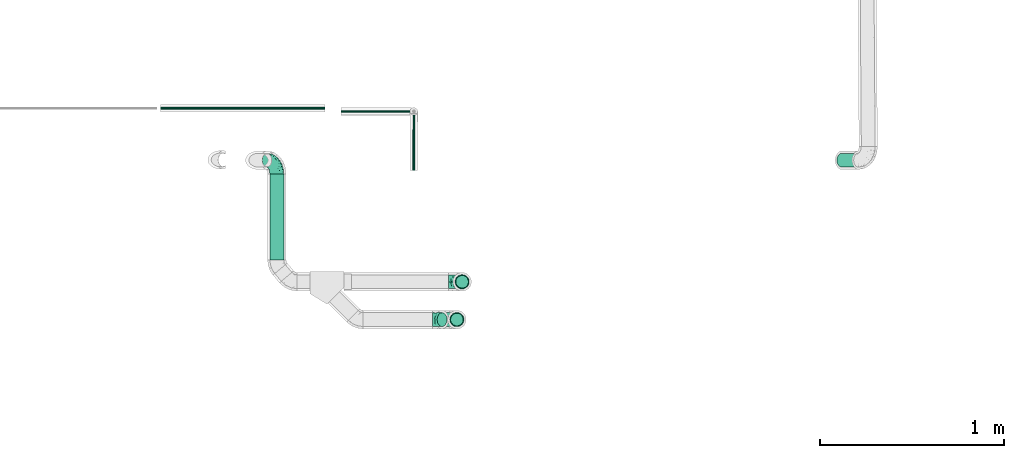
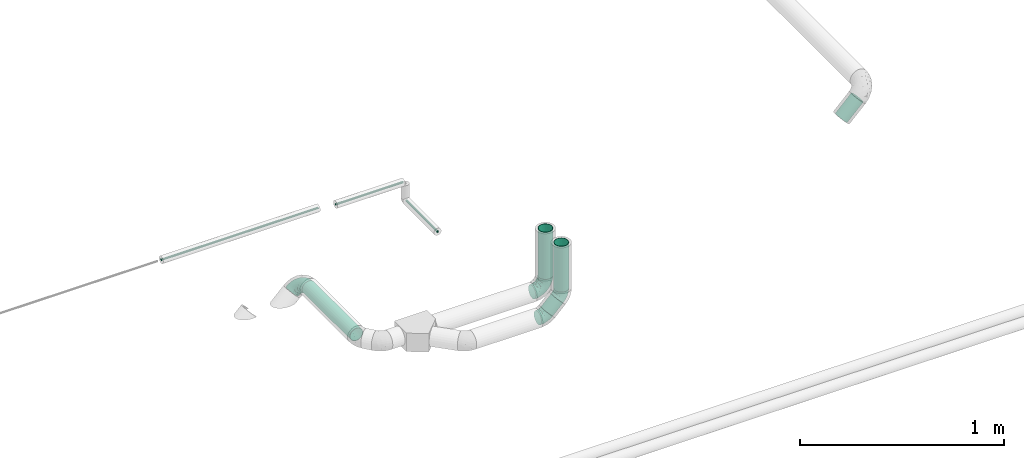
# One storey, part 73 of 156: 8 flow segments, 4 flow fittings.
"""IFC2X3 building model written with IfcOpenShell, lengths in millimetres."""

import ifcopenshell
import ifcopenshell.guid

model = None  # the IFC model being written
_history = None  # IfcOwnerHistory: only IFC2X3 demands one
_inside = {}  # id of a spatial element -> (the spatial element, [elements in it])
_under = {}  # id of a project, library or spatial element -> (it, [spatial elements below it])
_declared = {}  # id of a project -> (the project, [libraries it declares])
_typed = {}  # id of a type object -> (the type object, [elements of that type])
_made_of = {}  # id of a material, layer set ... -> (it, [elements and type objects made of it])


def new_model(schema):
    """Start an empty IFC model of exactly this schema.

    Asked for "IFC4X3", IfcOpenShell would pick the latest addendum, in which some entities
    have other attributes; the version numbers below select the first issue.
    IFC2X3 requires an IfcOwnerHistory on every rooted entity: one is made here for all.
    """
    global model, _history
    if schema == "IFC4X3":
        model = ifcopenshell.file(schema_version=(4, 3, 0, 0))
    else:
        model = ifcopenshell.file(schema=schema)
    _inside.clear()
    _under.clear()
    _declared.clear()
    _typed.clear()
    _made_of.clear()
    _history = None
    if model.schema == "IFC2X3":
        org = make("IfcOrganization", Name="unknown")
        user = make(
            "IfcPersonAndOrganization",
            ThePerson=make("IfcPerson", FamilyName="unknown"),
            TheOrganization=org,
        )
        app = make(
            "IfcApplication",
            ApplicationDeveloper=org,
            Version="unknown",
            ApplicationFullName="unknown",
            ApplicationIdentifier="unknown",
        )
        _history = make(
            "IfcOwnerHistory",
            OwningUser=user,
            OwningApplication=app,
            ChangeAction="ADDED",
            CreationDate=0,
        )
    return model


def make(cls, **values):
    """One entity of the class cls with the attributes given. An attribute that is None is left unset."""
    return model.create_entity(
        cls, **{name: value for name, value in values.items() if value is not None}
    )


def entity(cls, *values):
    """Any entity or typed value of the class cls, its attributes in the order of the schema. None: left unset."""
    e = model.create_entity(cls)
    for i, value in enumerate(values):
        if value is not None:
            e[i] = value
    return e


def rooted(cls, **values):
    """An entity with a GlobalId (a new one), such as an element, a storey or a relation."""
    return make(cls, GlobalId=ifcopenshell.guid.new(), OwnerHistory=_history, **values)


def si_unit(unit_type, name, prefix=None):
    """IfcSIUnit, for example si_unit("LENGTHUNIT", "METRE", prefix="MILLI")."""
    return make("IfcSIUnit", UnitType=unit_type, Prefix=prefix, Name=name)


def converted_unit(unit_type, name, factor, base, dimensions=None, offset=None):
    """IfcConversionBasedUnit, such as the inch: factor (a typed value) times the base unit."""
    return make(
        "IfcConversionBasedUnit"
        if offset is None
        else "IfcConversionBasedUnitWithOffset",
        ConversionOffset=offset,
        Dimensions=None
        if dimensions is None
        else entity("IfcDimensionalExponents", *dimensions),
        UnitType=unit_type,
        Name=name,
        ConversionFactor=make(
            "IfcMeasureWithUnit", ValueComponent=factor, UnitComponent=base
        ),
    )


def derived_unit(unit_type, elements):
    """IfcDerivedUnit: a product of units, each with its exponent."""
    return make(
        "IfcDerivedUnit",
        Elements=[
            make("IfcDerivedUnitElement", Unit=unit, Exponent=power)
            for unit, power in elements
        ],
        UnitType=unit_type,
    )


def assignment(units):
    """IfcUnitAssignment: the units of a project."""
    return None if units is None else make("IfcUnitAssignment", Units=units)


def point(xyz):
    """IfcCartesianPoint."""
    return None if xyz is None else make("IfcCartesianPoint", Coordinates=xyz)


def direction(xyz):
    """IfcDirection."""
    return None if xyz is None else make("IfcDirection", DirectionRatios=xyz)


def frame(location, z_axis=None, x_axis=None):
    """IfcAxis2Placement3D, a coordinate frame: its origin and axes. An axis left out is left unset."""
    return make(
        "IfcAxis2Placement3D",
        Location=point(location),
        Axis=direction(z_axis),
        RefDirection=direction(x_axis),
    )


def frame_2d(location, x_axis=None):
    """IfcAxis2Placement2D, a coordinate frame in the plane: its origin and x axis."""
    return make(
        "IfcAxis2Placement2D", Location=point(location), RefDirection=direction(x_axis)
    )


def origin_with_axes():
    """The frame at (0, 0, 0) with the z axis (0, 0, 1) and the x axis (1, 0, 0) written out."""
    return frame((0.0, 0.0, 0.0), z_axis=(0.0, 0.0, 1.0), x_axis=(1.0, 0.0, 0.0))


def origin_2d_with_axis():
    """The frame at (0, 0) in the plane with the x axis (1, 0) written out."""
    return frame_2d((0.0, 0.0), x_axis=(1.0, 0.0))


def place(relative_to, where):
    """IfcLocalPlacement: puts the frame where relative to a parent placement (None: the world)."""
    return make(
        "IfcLocalPlacement", PlacementRelTo=relative_to, RelativePlacement=where
    )


def context(
    kind, dimensions, precision=None, world=None, true_north=None, identifier=None
):
    """IfcGeometricRepresentationContext, for example the 3D "Model" context."""
    return make(
        "IfcGeometricRepresentationContext",
        ContextIdentifier=identifier,
        ContextType=kind,
        CoordinateSpaceDimension=dimensions,
        Precision=precision,
        WorldCoordinateSystem=world,
        TrueNorth=true_north,
    )


def subcontext(parent, identifier, kind, view, scale=None):
    """IfcGeometricRepresentationSubContext, for example "Body" below "Model"."""
    return make(
        "IfcGeometricRepresentationSubContext",
        ContextIdentifier=identifier,
        ContextType=kind,
        ParentContext=parent,
        TargetScale=scale,
        TargetView=view,
    )


def project(units=None, contexts=None):
    """IfcProject with its units and contexts."""
    return rooted(
        "IfcProject",
        Name="project",
        RepresentationContexts=contexts,
        UnitsInContext=assignment(units),
    )


def spatial(cls, under=None, at=None, **own):
    """A site, building, storey or space (cls), placed at a placement, below another one or the project."""
    s = rooted(cls, ObjectPlacement=at, **own)
    if under is not None:
        _under.setdefault(under.id(), (under, []))[1].append(s)
    return s


def profile(cls, at=None, kind="AREA", **sizes):
    """A parametric profile (cls). Its sizes go by their IFC names, for example OverallWidth=200.0."""
    return make(cls, ProfileType=kind, Position=at, **sizes)


def hollow_circle(**sizes):
    """IfcCircleHollowProfileDef."""
    return profile("IfcCircleHollowProfileDef", **sizes)


def extrude(swept, where, along, depth):
    """IfcExtrudedAreaSolid: the profile swept, set in the frame where, extruded along a direction by depth."""
    return make(
        "IfcExtrudedAreaSolid",
        SweptArea=swept,
        Position=where,
        ExtrudedDirection=direction(along),
        Depth=depth,
    )


def faces_of(points, faces, orient=None, outer=None):
    """IfcFace entities. A face is a list of loops; a loop is a list of indices into points, from 0.

    orient and outer hold one flag for each loop. By default every Orientation is true, the
    first loop of a face is its IfcFaceOuterBound and the others are IfcFaceBound.
    """
    made = []
    for i, loops in enumerate(faces):
        bounds = []
        for j, loop in enumerate(loops):
            is_outer = j == 0 if outer is None else outer[i][j]
            bounds.append(
                make(
                    "IfcFaceOuterBound" if is_outer else "IfcFaceBound",
                    Bound=make("IfcPolyLoop", Polygon=[points[k] for k in loop]),
                    Orientation=True if orient is None else orient[i][j],
                )
            )
        made.append(make("IfcFace", Bounds=bounds))
    return made


def open_shell(faces, orient=None, outer=None):
    """The faces of one IfcOpenShell. surface_model builds it on its shared points."""
    return ("IfcOpenShell", faces, orient, outer)


def surface_model(cls, points, shells):
    """IfcFaceBasedSurfaceModel or IfcShellBasedSurfaceModel (cls): surfaces that need not close."""
    shared = [point(p) for p in points]
    made = [make(c, CfsFaces=faces_of(shared, fs, o, b)) for c, fs, o, b in shells]
    if cls == "IfcFaceBasedSurfaceModel":
        return make(cls, FbsmFaces=made)
    return make(cls, SbsmBoundary=made)


def shape(context_of_items, identifier, shape_type, items):
    """IfcShapeRepresentation: the items that make up one representation, for example the "Body"."""
    return make(
        "IfcShapeRepresentation",
        ContextOfItems=context_of_items,
        RepresentationIdentifier=identifier,
        RepresentationType=shape_type,
        Items=items,
    )


def source(mapping_origin, context_of_items, identifier, shape_type, items):
    """IfcRepresentationMap: a shape defined once, which mapped items show again and again."""
    return make(
        "IfcRepresentationMap",
        MappingOrigin=mapping_origin,
        MappedRepresentation=shape(context_of_items, identifier, shape_type, items),
    )


def transform(
    local_origin,
    x_axis=None,
    y_axis=None,
    z_axis=None,
    scale=None,
    scale2=None,
    scale3=None,
    uniform=True,
):
    """IfcCartesianTransformationOperator3D, or its non-uniform kind. x_axis, y_axis, z_axis: its Axis1, 2, 3."""
    if uniform:
        return make(
            "IfcCartesianTransformationOperator3D",
            Axis1=direction(x_axis),
            Axis2=direction(y_axis),
            LocalOrigin=point(local_origin),
            Scale=scale,
            Axis3=direction(z_axis),
        )
    return make(
        "IfcCartesianTransformationOperator3DnonUniform",
        Axis1=direction(x_axis),
        Axis2=direction(y_axis),
        LocalOrigin=point(local_origin),
        Scale=scale,
        Axis3=direction(z_axis),
        Scale2=scale2,
        Scale3=scale3,
    )


def mapped(mapping_source, mapping_target):
    """IfcMappedItem: shows the shape of a source again, moved by a transform."""
    return make(
        "IfcMappedItem", MappingSource=mapping_source, MappingTarget=mapping_target
    )


def made_of(thing, what):
    """Note that an element or type object is made of a material, layer set ...; save() writes the relation."""
    if what is not None:
        _made_of.setdefault(what.id(), (what, []))[1].append(thing)
    return thing


def type_object(cls, material=None, **own):
    """A type object (cls), such as IfcWallType, which elements share."""
    return made_of(rooted(cls, **own), material)


def element(
    cls,
    number,
    at=None,
    inside=None,
    cuts=None,
    type_object=None,
    material=None,
    context=None,
    identifier="Body",
    shape_type=None,
    held_by="IfcProductDefinitionShape",
    body=None,
    shapes=None,
    **own,
):
    """One element of the class cls, such as IfcWall. Its Tag is "e" and its number.

    at: its placement. inside: the storey or other place that contains it. cuts: it is an
    opening in that element (IfcRelVoidsElement). A single representation is given by context,
    identifier, shape_type and body (its items); several are given by shapes. held_by: the class
    of the entity that holds the representations. save() writes the other relations.
    """
    e = rooted(cls, Tag="e%d" % number, ObjectPlacement=at, **own)
    if body is not None:
        shapes = [shape(context, identifier, shape_type, body)]
    if shapes is not None:
        e.Representation = make(held_by, Representations=shapes)
    if inside is not None:
        _inside.setdefault(inside.id(), (inside, []))[1].append(e)
    if cuts is not None:
        rooted(
            "IfcRelVoidsElement", RelatingBuildingElement=cuts, RelatedOpeningElement=e
        )
    if type_object is not None:
        _typed.setdefault(type_object.id(), (type_object, []))[1].append(e)
    return made_of(e, material)


def aggregate(whole, parts):
    """IfcRelAggregates: a whole, such as a stair, and the parts it consists of."""
    return rooted("IfcRelAggregates", RelatingObject=whole, RelatedObjects=parts)


def save(model, path):
    """Write the relations noted so far, then the file.

    IfcRelAggregates (storeys below a building ...), IfcRelContainedInSpatialStructure (elements
    in a storey), IfcRelDefinesByType, IfcRelAssociatesMaterial and IfcRelDeclares: one each for
    every whole, place, type object, material and project.
    """
    for whole, parts in _under.values():
        aggregate(whole, parts)
    for where, things in _inside.values():
        rooted(
            "IfcRelContainedInSpatialStructure",
            RelatedElements=things,
            RelatingStructure=where,
        )
    for kind, things in _typed.values():
        rooted("IfcRelDefinesByType", RelatedObjects=things, RelatingType=kind)
    for what, things in _made_of.values():
        rooted("IfcRelAssociatesMaterial", RelatedObjects=things, RelatingMaterial=what)
    for by, libraries in _declared.values():
        rooted("IfcRelDeclares", RelatingContext=by, RelatedDefinitions=libraries)
    model.write(path)


model = new_model("IFC2X3")

# Units and contexts
model_context = context("Model", 3, precision=0.01, world=frame((0.0, 4.29681676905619e-09, 0.0)), true_north=direction((4.01073788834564e-13, 1.0)))
plan_context = context("Plan", 3, precision=0.01, world=frame((0.0, 4.29681676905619e-09, 0.0)), true_north=direction((4.01073788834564e-13, 1.0)))
body_context = subcontext(model_context, "Body", "Model", "MODEL_VIEW")
ifc_project = project(units=[converted_unit("PLANEANGLEUNIT", "DEGREE", entity("IfcPositiveLengthMeasure", 0.0174532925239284), si_unit("PLANEANGLEUNIT", "RADIAN"), dimensions=[0, 0, 0, 0, 0, 0, 0]), si_unit("AREAUNIT", "SQUARE_METRE"), si_unit("LENGTHUNIT", "METRE", prefix="MILLI"), si_unit("MASSUNIT", "GRAM", prefix="KILO"), si_unit("POWERUNIT", "WATT"), si_unit("PRESSUREUNIT", "PASCAL", prefix="KILO"), si_unit("FORCEUNIT", "NEWTON", prefix="KILO"), si_unit("ELECTRICVOLTAGEUNIT", "VOLT"), si_unit("ELECTRICCURRENTUNIT", "AMPERE"), si_unit("THERMODYNAMICTEMPERATUREUNIT", "DEGREE_CELSIUS"), si_unit("TIMEUNIT", "SECOND"), si_unit("VOLUMEUNIT", "CUBIC_METRE"), derived_unit("LINEARVELOCITYUNIT", [(si_unit("LENGTHUNIT", "METRE"), 1), (si_unit("TIMEUNIT", "SECOND"), -1)]), derived_unit("VOLUMETRICFLOWRATEUNIT", [(si_unit("VOLUMEUNIT", "CUBIC_METRE"), 1), (si_unit("TIMEUNIT", "SECOND"), -1)]), derived_unit("THERMALTRANSMITTANCEUNIT", [(si_unit("POWERUNIT", "WATT"), 1), (si_unit("THERMODYNAMICTEMPERATUREUNIT", "KELVIN"), -1), (si_unit("AREAUNIT", "SQUARE_METRE"), -1)]), derived_unit("SOUNDPRESSUREUNIT", [(si_unit("PRESSUREUNIT", "PASCAL"), 1)])], contexts=[model_context, plan_context])

# Site, building, storey
site_placement = place(None, frame((0.0, -4.29681676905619e-09, 0.0), z_axis=(0.0, 0.0, 1.0), x_axis=(1.0, 0.0, 0.0)))
site = spatial("IfcSite", under=ifc_project, at=site_placement, CompositionType="ELEMENT")
building_placement = place(site_placement, frame((0.0, 4.29681676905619e-09, 0.0), z_axis=(0.0, 0.0, 1.0), x_axis=(1.0, 0.0, 0.0)))
building = spatial("IfcBuilding", under=site, at=building_placement, Name="mc-building", CompositionType="ELEMENT")
storey_placement = place(building_placement, frame((0.0, 0.0, 205200.0), z_axis=(0.0, 0.0, 1.0), x_axis=(1.0, 0.0, 0.0)))
storey = spatial("IfcBuildingStorey", under=building, at=storey_placement, Name="Nivå D + 1,2 m", CompositionType="ELEMENT", Elevation=205200.0)

# Flow fittings
pipe_fitting_type = type_object("IfcPipeFittingType", Name="magi_pipe_elbow_short_001", PredefinedType="BEND")
shared_shape_1 = source(origin_with_axes(), body_context, "Body", "SurfaceModel", [
    surface_model("IfcShellBasedSurfaceModel", [(-75.0, 18.75, -32.47595), (-75.0, 9.70571, -36.22222), (-75.0, 0.0, -37.5), (-75.0, 26.5165, -26.5165), (-75.0, 36.22222, -9.70571), (-75.0, 32.47595, -18.75), (-75.0, -26.5165, -26.5165), (-75.0, -32.47595, -18.75), (-75.0, -18.75, -32.47595), (-75.0, -9.70571, -36.22222), (-75.0, -36.22222, -9.70571), (-75.0, -37.5, 0.0), (-75.0, -36.22222, 9.70571), (-75.0, 32.47595, 18.75), (-75.0, 36.22222, 9.70571), (-75.0, 26.5165, 26.5165), (-75.0, 9.70571, 36.22222), (-75.0, 18.75, 32.47595), (-75.0, -32.47595, 18.75), (-75.0, -26.5165, 26.5165), (-75.0, -18.75, 32.47595), (-75.0, -9.70571, 36.22222), (-75.0, 0.0, 37.5), (-75.0, 37.5, 0.0), (0.0, 75.0, -37.5), (-9.70571, 75.0, -36.22222), (-18.75, 75.0, -32.47595), (-26.5165, 75.0, -26.5165), (-37.5, 75.0, 0.0), (-32.47595, 75.0, -18.75), (26.5165, 75.0, -26.5165), (32.47595, 75.0, -18.75), (9.70571, 75.0, -36.22222), (18.75, 75.0, -32.47595), (37.5, 75.0, 0.0), (36.22222, 75.0, -9.70571), (36.22222, 75.0, 9.70571), (-36.22222, 75.0, -9.70571), (-36.22222, 75.0, 9.70571), (-26.5165, 75.0, 26.5165), (-32.47595, 75.0, 18.75), (-18.75, 75.0, 32.47595), (-9.70571, 75.0, 36.22222), (26.5165, 75.0, 26.5165), (32.47595, 75.0, 18.75), (18.75, 75.0, 32.47595), (0.0, 75.0, 37.5), (9.70571, 75.0, 36.22222), (-50.66195, -32.88873, 11.78572), (-54.99922, -29.13125, 21.04995), (-40.23559, -31.99386, 0.0), (-56.55691, -34.5789, 0.0), (-9.60325, -12.95098, 14.46051), (-2.61009, -10.01741, 7.88638), (2.16617, -2.16616, 15.53807), (-57.288, -4.96773, 36.85866), (-52.51217, 5.74824, 37.43608), (12.81037, 9.15765, 14.08651), (22.89928, 30.51548, 18.6525), (8.7824, 13.60594, 23.93416), (-37.33476, -0.33653, 36.347), (-54.85586, -14.14869, 33.72555), (-29.12471, -8.85823, 31.34411), (-48.10461, -21.423, 27.85772), (-33.59975, -28.74209, 7.71494), (-24.55487, -24.00414, 0.0), (-13.60594, -8.7824, 23.93416), (-6.69857, 6.69857, 30.65943), (-36.65649, 59.85204, 16.29881), (-31.32632, 58.38324, 24.63625), (-13.99807, 64.68502, 35.12545), (-5.13953, 56.09471, 37.40789), (-57.80652, 14.70733, 35.42412), (-9.78855, 25.11652, 36.82116), (-18.63299, 6.87945, 35.01744), (-3.83097, 20.26022, 34.46205), (-64.87994, 22.70936, 30.5559), (-13.033, 36.87746, 37.43272), (-27.77679, 27.77679, 36.58883), (-22.32941, 16.38719, 37.30683), (-59.28624, 39.94303, 8.24496), (-59.87067, 36.65042, 16.29631), (-46.56121, 46.56121, 14.01781), (-58.62128, 31.26084, 24.61005), (21.423, 48.10461, 27.85772), (-38.8913, 49.70952, 21.22461), (14.14869, 54.85586, 33.72555), (29.13125, 54.99922, 21.04995), (32.88873, 50.66195, 11.78572), (-8.87416, -16.01441, 0.0), (-18.2094, -20.62738, 9.716), (4.96773, 57.288, 36.85866), (-41.2078, 16.06301, 36.82891), (-36.79737, 9.18911, 37.484), (24.00414, 24.55487, 0.0), (28.74209, 33.59975, 7.71494), (20.62738, 18.2094, 9.716), (34.5789, 56.5569, 0.0), (-39.86686, 25.44473, 34.6853), (-30.51548, -22.89929, 18.6525), (-27.18733, 48.46895, 31.51768), (-22.90983, 62.88141, 30.71147), (-39.47351, 60.49606, 8.04494), (-46.99814, 49.18552, 6.59975), (17.2765, 30.20783, 25.41576), (8.85823, 29.12471, 31.34411), (-42.52405, 56.25, 0.0), (-34.71543, 39.60057, 30.81378), (-51.63921, 25.45565, 31.57887), (-0.57315, 0.57314, 22.15528), (-21.39907, 38.81887, 36.04898), (-29.87575, 36.30561, 34.12075), (-16.21806, 50.81342, 35.71351), (-39.52887, 41.87958, 26.56295), (-48.16312, 40.29427, 20.91087), (0.33653, 37.33476, 36.347), (-30.0679, -16.43719, 26.14736), (10.22617, 2.72351, 7.47716), (31.99386, 40.23559, 0.0), (16.01441, 8.87416, 0.0), (-56.25, 42.52405, 0.0), (3.57013, -3.57013, 0.0), (-55.29924, 32.29556, -24.97819), (-59.83636, 36.66159, -16.30091), (-30.63566, -9.46389, -31.46168), (-32.56288, -0.46777, -35.66689), (-15.06702, -0.62752, -30.72736), (-59.36538, 4.74163, -37.37795), (-54.70677, -33.57101, -12.22532), (-47.11778, -27.80921, -20.31132), (-35.78225, -28.12088, -12.58113), (-54.55876, 15.30781, -35.56016), (-41.31209, 8.8649, -37.4919), (-32.29557, 55.29924, -24.97819), (-60.70982, 39.34858, -8.20557), (-23.53711, 58.87183, -31.02168), (-15.30781, 54.55876, -35.56016), (-47.71661, 47.71661, -8.95342), (22.40392, 54.25272, -28.31307), (12.94164, 47.49005, -33.35163), (14.78364, 63.33368, -34.12928), (-7.30605, -13.19114, -9.87585), (-7.41233, -9.72412, -17.08835), (4.03435, -3.18292, -9.89479), (-21.88198, 20.2773, -37.47871), (-35.54999, 22.18897, -36.38385), (-58.87183, 23.53711, -31.02168), (-63.13479, -29.8521, -21.78761), (-36.48245, 42.59931, -28.24512), (-34.65769, 34.65768, -32.92632), (-45.83467, 31.6775, -29.79181), (3.27021, -0.68924, -16.07244), (-54.25272, -22.40392, -28.31307), (27.80921, 47.11778, -20.31132), (33.57101, 54.70677, -12.22532), (28.12088, 35.78224, -12.58113), (-63.33368, -14.78364, -34.12928), (4.72829, 55.2495, -36.81435), (-23.70708, -18.25272, -20.4572), (-27.99946, -15.29719, -26.23299), (-13.59403, -9.26621, -23.44624), (-40.92572, -17.1227, -29.44432), (-47.49005, -12.94164, -33.35163), (-55.2495, -4.72829, -36.81435), (-28.10029, 46.13387, -31.76622), (-39.34858, 60.70982, -8.20557), (-4.74163, 59.36537, -37.37795), (-13.2384, 13.2384, -35.41008), (0.46777, 32.56288, -35.66689), (1.57868, 17.61531, -31.27328), (-36.6616, 59.83635, -16.30091), (-45.03866, 45.03866, -18.48368), (29.8521, 63.13479, -21.78761), (21.73246, 30.12864, -20.13951), (12.08848, 14.21656, -20.79992), (15.29719, 27.99946, -26.23299), (7.75053, 32.01418, -32.75993), (-8.8649, 41.31209, -37.4919), (-45.59181, 24.13361, -33.799), (-22.36035, 36.49252, -36.20246), (-0.35549, 0.35549, -21.72869), (-17.3698, -20.96637, -6.45086), (19.22892, 18.63119, -13.96617), (20.96637, 17.3698, -6.45086), (4.41782, 11.43015, -26.30466), (-18.63119, -19.22892, -13.96617)], [open_shell([[[0, 1, 2]], [[3, 0, 2]], [[4, 5, 3]], [[6, 3, 2]], [[4, 3, 7]], [[8, 6, 9]], [[6, 2, 9]], [[10, 11, 7]], [[3, 6, 7]], [[7, 11, 12]], [[12, 4, 7]], [[13, 14, 15]], [[16, 17, 15]], [[18, 19, 12]], [[20, 12, 19]], [[21, 22, 20]], [[12, 20, 22]], [[4, 12, 23]], [[24, 25, 26]], [[24, 26, 27]], [[28, 27, 29]], [[24, 27, 30]], [[28, 31, 27]], [[32, 30, 33]], [[32, 24, 30]], [[31, 34, 35]], [[31, 30, 27]], [[36, 34, 31]], [[37, 28, 29]], [[38, 36, 28]], [[39, 38, 40]], [[39, 41, 42]], [[38, 39, 36]], [[42, 36, 39]], [[36, 43, 44]], [[43, 36, 45]], [[45, 46, 47]], [[46, 45, 36]], [[36, 42, 46]], [[28, 36, 31]], [[48, 49, 18]], [[50, 48, 51]], [[52, 53, 54]], [[12, 48, 18]], [[12, 51, 48]], [[22, 55, 56]], [[18, 49, 19]], [[57, 58, 59]], [[60, 61, 62]], [[63, 20, 19]], [[63, 61, 20]], [[64, 50, 65]], [[62, 66, 67]], [[40, 68, 69]], [[42, 70, 71]], [[16, 72, 17]], [[73, 74, 75]], [[17, 76, 15]], [[21, 55, 22]], [[77, 78, 79]], [[80, 81, 82]], [[13, 83, 81]], [[84, 43, 45]], [[23, 14, 80]], [[14, 13, 81]], [[68, 85, 69]], [[83, 13, 15]], [[22, 56, 16]], [[45, 86, 84]], [[15, 76, 83]], [[87, 58, 88]], [[40, 38, 68]], [[89, 90, 65]], [[46, 91, 47]], [[65, 90, 64]], [[46, 42, 71]], [[92, 93, 79]], [[88, 36, 44]], [[44, 43, 87]], [[87, 88, 44]], [[94, 95, 96]], [[88, 97, 36]], [[98, 72, 92]], [[49, 99, 63]], [[69, 100, 101]], [[82, 102, 103]], [[104, 105, 59]], [[106, 102, 28]], [[98, 107, 108]], [[102, 82, 68]], [[86, 45, 47]], [[69, 39, 40]], [[109, 54, 57]], [[110, 100, 111]], [[20, 61, 21]], [[101, 41, 39]], [[70, 42, 41]], [[112, 77, 71]], [[84, 86, 105]], [[96, 95, 58]], [[100, 69, 113]], [[72, 16, 56]], [[108, 113, 83]], [[81, 114, 82]], [[112, 110, 77]], [[91, 71, 115]], [[62, 61, 63]], [[55, 61, 60]], [[116, 99, 66]], [[74, 62, 67]], [[91, 86, 47]], [[105, 86, 115]], [[75, 105, 115]], [[109, 67, 66]], [[59, 105, 67]], [[48, 64, 99]], [[99, 49, 48]], [[63, 19, 49]], [[43, 84, 87]], [[58, 87, 84]], [[92, 72, 56]], [[76, 72, 108]], [[102, 68, 38]], [[82, 114, 85]], [[98, 111, 107]], [[112, 70, 101]], [[114, 83, 113]], [[82, 103, 80]], [[92, 79, 78]], [[115, 71, 77]], [[74, 79, 60]], [[77, 79, 73]], [[71, 91, 46]], [[86, 91, 115]], [[61, 55, 21]], [[56, 55, 60]], [[57, 54, 117]], [[104, 59, 58]], [[116, 66, 62]], [[52, 99, 90]], [[12, 11, 51]], [[97, 88, 118]], [[97, 34, 36]], [[53, 90, 89]], [[90, 53, 52]], [[94, 96, 119]], [[88, 95, 118]], [[117, 54, 53]], [[92, 56, 93]], [[98, 92, 78]], [[111, 98, 78]], [[72, 98, 108]], [[110, 111, 78]], [[107, 111, 100]], [[28, 102, 38]], [[102, 106, 103]], [[106, 120, 103]], [[103, 120, 80]], [[23, 80, 120]], [[14, 81, 80]], [[56, 60, 93]], [[60, 79, 93]], [[117, 121, 119]], [[121, 117, 53]], [[53, 89, 121]], [[119, 96, 117]], [[117, 96, 57]], [[77, 110, 78]], [[100, 110, 112]], [[83, 114, 81]], [[85, 114, 113]], [[69, 85, 113]], [[82, 85, 68]], [[109, 52, 54]], [[99, 52, 66]], [[69, 101, 39]], [[112, 101, 100]], [[100, 113, 107]], [[108, 107, 113]], [[62, 74, 60]], [[75, 74, 67]], [[105, 75, 67]], [[73, 75, 115]], [[77, 73, 115]], [[74, 73, 79]], [[99, 64, 90]], [[50, 64, 48]], [[118, 95, 94]], [[58, 95, 88]], [[58, 57, 96]], [[109, 57, 59]], [[72, 76, 17]], [[83, 76, 108]], [[101, 70, 41]], [[71, 70, 112]], [[58, 84, 104]], [[105, 104, 84]], [[67, 109, 59]], [[52, 109, 66]], [[62, 63, 116]], [[99, 116, 63]], [[122, 5, 123]], [[124, 125, 126]], [[2, 1, 127]], [[128, 129, 130]], [[127, 131, 132]], [[29, 27, 133]], [[120, 134, 23]], [[135, 26, 136]], [[123, 134, 137]], [[138, 139, 140]], [[122, 3, 5]], [[141, 142, 143]], [[144, 132, 145]], [[131, 0, 146]], [[128, 7, 147]], [[148, 149, 150]], [[128, 51, 10]], [[142, 151, 143]], [[152, 6, 8]], [[153, 154, 155]], [[156, 152, 8]], [[32, 157, 24]], [[158, 159, 160]], [[147, 7, 6]], [[129, 152, 161]], [[156, 8, 9]], [[162, 163, 125]], [[154, 31, 35]], [[120, 106, 137]], [[149, 148, 164]], [[28, 37, 165]], [[163, 9, 2]], [[5, 4, 123]], [[25, 166, 136]], [[167, 168, 169]], [[170, 133, 171]], [[25, 24, 166]], [[33, 30, 138]], [[157, 32, 140]], [[37, 29, 170]], [[30, 31, 172]], [[26, 135, 27]], [[132, 131, 145]], [[32, 33, 140]], [[173, 174, 175]], [[169, 168, 176]], [[25, 136, 26]], [[175, 138, 173]], [[168, 177, 157]], [[163, 162, 156]], [[153, 172, 154]], [[7, 128, 10]], [[154, 97, 118]], [[131, 178, 145]], [[0, 3, 146]], [[175, 139, 138]], [[155, 118, 94]], [[131, 1, 0]], [[146, 178, 131]], [[170, 137, 165]], [[149, 179, 145]], [[171, 133, 148]], [[160, 180, 142]], [[65, 181, 89]], [[170, 165, 37]], [[137, 171, 123]], [[172, 138, 30]], [[138, 153, 173]], [[168, 157, 139]], [[166, 157, 177]], [[176, 175, 169]], [[168, 167, 144]], [[154, 35, 97]], [[155, 182, 173]], [[162, 124, 161]], [[147, 152, 129]], [[127, 163, 2]], [[132, 144, 125]], [[132, 125, 163]], [[125, 167, 126]], [[129, 158, 130]], [[35, 34, 97]], [[143, 182, 183]], [[169, 126, 167]], [[3, 122, 146]], [[178, 150, 149]], [[136, 179, 164]], [[133, 27, 135]], [[123, 4, 134]], [[122, 123, 171]], [[133, 170, 29]], [[137, 170, 171]], [[184, 175, 174]], [[180, 160, 126]], [[126, 169, 184]], [[126, 159, 124]], [[51, 128, 50]], [[51, 11, 10]], [[131, 127, 1]], [[163, 127, 132]], [[157, 166, 24]], [[136, 166, 177]], [[164, 179, 149]], [[144, 167, 125]], [[179, 144, 145]], [[168, 144, 177]], [[136, 177, 179]], [[144, 179, 177]], [[141, 121, 89]], [[89, 181, 141]], [[154, 118, 155]], [[183, 155, 94]], [[143, 183, 119]], [[119, 183, 94]], [[155, 183, 182]], [[181, 130, 185]], [[50, 128, 130]], [[130, 181, 65]], [[50, 130, 65]], [[141, 181, 185]], [[142, 141, 185]], [[143, 121, 141]], [[158, 160, 142]], [[142, 180, 151]], [[158, 142, 185]], [[126, 160, 159]], [[130, 158, 185]], [[129, 159, 158]], [[23, 134, 4]], [[120, 137, 134]], [[137, 106, 165]], [[28, 165, 106]], [[174, 151, 180]], [[182, 143, 151]], [[150, 146, 122]], [[149, 145, 178]], [[146, 150, 178]], [[122, 171, 148]], [[148, 150, 122]], [[164, 133, 135]], [[133, 164, 148]], [[164, 135, 136]], [[138, 140, 33]], [[157, 140, 139]], [[154, 172, 31]], [[138, 172, 153]], [[163, 156, 9]], [[152, 156, 162]], [[152, 147, 6]], [[128, 147, 129]], [[155, 173, 153]], [[174, 173, 182]], [[151, 174, 182]], [[174, 180, 184]], [[126, 184, 180]], [[175, 184, 169]], [[168, 139, 176]], [[175, 176, 139]], [[161, 124, 159]], [[125, 124, 162]], [[129, 161, 159]], [[162, 161, 152]], [[143, 119, 121]], [[14, 23, 15]], [[23, 16, 15]], [[22, 16, 23]], [[22, 23, 12]]])]),
])
for number, where, z_axis, x_axis, name in (
    (1, (338407.25109, 461168.55164, 4098.75644), (0.707106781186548, 0.0, -0.707106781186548), (0.707106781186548, 0.0, 0.707106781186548), "magi_pipe_elbow_short_001"),
    (2, (339411.91478, 460509.27805, 4098.75644), (0.0, 1.0, 0.0), (0.0, 0.0, -1.0), "magi_pipe_elbow_short_001"),
):
    element("IfcFlowFitting", number, at=place(storey_placement, frame(where, z_axis=z_axis, x_axis=x_axis)), inside=storey, type_object=pipe_fitting_type, Name=name, context=body_context, shape_type="MappedRepresentation", body=[
        mapped(shared_shape_1, transform((0.0, 0.0, 0.0), scale=1.0)),
    ])
shared_shape_2 = source(origin_with_axes(), body_context, "Body", "SurfaceModel", [
    surface_model("IfcShellBasedSurfaceModel", [(-31.06602, 18.75, -32.47595), (-31.06602, 9.70571, -36.22222), (-31.06602, 0.0, -37.5), (-31.06602, 26.5165, -26.5165), (-31.06602, 36.22222, -9.70571), (-31.06602, 32.47595, -18.75), (-31.06602, -26.5165, -26.5165), (-31.06602, -32.47595, -18.75), (-31.06602, -18.75, -32.47595), (-31.06602, -9.70571, -36.22222), (-31.06602, -36.22222, -9.70571), (-31.06602, -37.5, 0.0), (-31.06602, -36.22222, 9.70571), (-31.06602, 36.22222, 9.70571), (-31.06602, 37.5, 0.0), (-31.06602, 26.5165, 26.5165), (-31.06602, 32.47595, 18.75), (-31.06602, 9.70571, 36.22222), (-31.06602, 18.75, 32.47595), (-31.06602, 0.0, 37.5), (-31.06602, -32.47595, 18.75), (-31.06602, -26.5165, 26.5165), (-31.06602, -18.75, 32.47595), (-31.06602, -9.70571, 36.22222), (21.96699, 21.96699, -37.5), (15.10402, 28.82997, -36.22222), (8.70874, 35.22524, -32.47595), (3.21699, 40.71699, -26.5165), (-0.99697, 44.93096, -18.75), (-3.64599, 47.57997, -9.70571), (40.71699, 3.21699, -26.5165), (47.57997, -3.64599, 9.70571), (35.22524, 8.70874, -32.47595), (28.82997, 15.10402, -36.22222), (44.93096, -0.99697, -18.75), (47.57997, -3.64599, -9.70571), (48.4835, -4.54951, 0.0), (-4.54951, 48.4835, 0.0), (3.21699, 40.71699, 26.5165), (-3.64599, 47.57997, 9.70571), (-0.99697, 44.93096, 18.75), (8.70874, 35.22524, 32.47595), (15.10402, 28.82997, 36.22222), (21.96699, 21.96699, 37.5), (40.71699, 3.21699, 26.5165), (44.93096, -0.99697, 18.75), (35.22524, 8.70874, 32.47595), (28.82997, 15.10402, 36.22222), (9.55102, -23.0582, 20.89761), (-8.29629, -21.19414, 28.93647), (-12.1092, -28.6804, 21.95769), (-12.52947, -35.05962, 0.0), (-1.94887, -33.66666, 0.0), (-8.00413, -34.54807, 6.40349), (28.8426, -11.7176, 21.95769), (-14.85891, -13.75094, 34.27307), (3.85041, -9.29571, 33.80058), (1.11309, 22.54421, 35.00091), (6.77913, 17.75082, 36.95457), (-11.19207, -3.61059, 37.00319), (-3.56676, 8.61092, 37.36822), (-18.78922, 5.19642, 37.27243), (-10.65195, 25.71608, 30.6152), (-16.5374, 31.44928, 23.66502), (20.23022, 0.78345, 34.27307), (-14.40868, 15.60478, 35.05721), (14.47194, -24.54326, 14.77903), (-6.72388, -32.44318, 13.02279), (11.6428, -28.1082, 8.15064), (-15.44831, 37.29553, 15.40662), (30.08895, -18.76939, 6.40349), (33.65056, -15.93122, 0.0), (-15.02041, 40.18231, 7.87919), (27.69529, -18.1863, 13.02279), (10.46707, 5.36091, 37.00319), (20.85288, -9.12015, 28.93647), (-16.71539, 40.35452, 0.0), (6.2943, -15.19578, 29.90417), (11.61755, -28.04726, 0.0), (25.18398, -22.42786, 0.0), (-11.19207, -3.61059, -37.00319), (-8.00414, -34.54807, -6.40349), (11.6428, -28.1082, -8.15064), (10.46707, 5.36091, -37.00319), (-16.72824, 15.15409, -35.00091), (-17.34529, 7.75816, -36.95457), (-10.5443, 33.9317, -23.66502), (20.85288, -9.12015, -28.93647), (-15.44832, 37.29553, -15.40662), (27.69529, -18.1863, -13.02279), (-17.79215, 39.03422, -7.87919), (-0.84577, 21.22272, -35.05721), (-6.72388, -32.44318, -13.02279), (-10.65195, 25.71608, -30.6152), (-12.1092, -28.6804, -21.95769), (-8.29629, -21.19414, -28.93646), (6.2943, -15.19578, -29.90417), (9.55102, -23.0582, -20.89761), (-14.85891, -13.75094, -34.27307), (20.23022, 0.78345, -34.27307), (3.85041, -9.29571, -33.80058), (30.08895, -18.76939, -6.40349), (9.61156, 16.96041, -37.27243), (7.1215, -27.58792, -14.77903), (28.8426, -11.7176, -21.95769), (-3.56676, 8.61092, -37.36822)], [open_shell([[[0, 1, 2]], [[3, 0, 2]], [[4, 5, 3]], [[6, 3, 2]], [[4, 3, 7]], [[8, 6, 9]], [[6, 2, 9]], [[10, 11, 7]], [[3, 6, 7]], [[7, 11, 12]], [[12, 4, 7]], [[13, 14, 15]], [[16, 13, 15]], [[17, 18, 15]], [[14, 17, 15]], [[19, 17, 14]], [[20, 21, 12]], [[22, 12, 21]], [[23, 19, 22]], [[12, 22, 19]], [[19, 14, 12]], [[4, 12, 14]], [[24, 25, 26]], [[24, 26, 27]], [[27, 28, 29]], [[24, 27, 30]], [[27, 31, 30]], [[24, 32, 33]], [[24, 30, 32]], [[30, 31, 34]], [[31, 35, 34]], [[35, 31, 36]], [[29, 37, 27]], [[38, 37, 39]], [[38, 39, 40]], [[38, 41, 42]], [[38, 42, 37]], [[37, 42, 43]], [[31, 44, 45]], [[44, 31, 46]], [[46, 43, 47]], [[43, 46, 31]], [[31, 37, 43]], [[37, 31, 27]], [[48, 49, 50]], [[51, 52, 53]], [[22, 21, 49]], [[45, 44, 54]], [[55, 49, 56]], [[50, 49, 21]], [[42, 57, 58]], [[23, 22, 55]], [[59, 60, 61]], [[19, 23, 59]], [[15, 62, 63]], [[46, 47, 64]], [[61, 17, 19]], [[18, 65, 62]], [[12, 51, 53]], [[41, 38, 62]], [[66, 67, 68]], [[62, 15, 18]], [[21, 20, 50]], [[16, 63, 69]], [[13, 16, 69]], [[31, 70, 71]], [[72, 14, 13]], [[73, 66, 68]], [[67, 53, 68]], [[18, 17, 65]], [[43, 58, 74]], [[44, 46, 75]], [[40, 39, 69]], [[74, 47, 43]], [[48, 50, 67]], [[44, 75, 54]], [[60, 58, 57]], [[75, 46, 64]], [[20, 67, 50]], [[70, 31, 73]], [[48, 54, 75]], [[61, 65, 17]], [[48, 66, 54]], [[13, 69, 72]], [[20, 12, 67]], [[76, 72, 37]], [[49, 77, 56]], [[39, 72, 69]], [[56, 74, 59]], [[40, 69, 63]], [[56, 64, 74]], [[40, 63, 38]], [[60, 59, 74]], [[42, 41, 57]], [[57, 62, 65]], [[55, 59, 23]], [[16, 15, 63]], [[73, 31, 45]], [[73, 45, 54]], [[77, 48, 75]], [[38, 63, 62]], [[62, 57, 41]], [[60, 57, 65]], [[49, 55, 22]], [[59, 55, 56]], [[74, 64, 47]], [[75, 64, 56]], [[12, 11, 51]], [[68, 52, 78]], [[12, 53, 67]], [[52, 68, 53]], [[70, 68, 79]], [[71, 70, 79]], [[71, 36, 31]], [[68, 70, 73]], [[74, 58, 60]], [[43, 42, 58]], [[59, 61, 19]], [[65, 61, 60]], [[48, 77, 49]], [[75, 56, 77]], [[37, 72, 39]], [[72, 76, 14]], [[54, 66, 73]], [[67, 66, 48]], [[79, 68, 78]], [[9, 2, 80]], [[52, 81, 82]], [[24, 33, 83]], [[84, 85, 1]], [[5, 86, 3]], [[32, 30, 87]], [[88, 86, 5]], [[34, 35, 89]], [[4, 90, 88]], [[26, 25, 91]], [[10, 81, 51]], [[0, 84, 1]], [[81, 10, 92]], [[27, 93, 86]], [[92, 7, 94]], [[94, 6, 95]], [[6, 8, 95]], [[96, 97, 95]], [[10, 7, 92]], [[6, 94, 7]], [[98, 8, 9]], [[99, 83, 33]], [[29, 28, 88]], [[100, 98, 80]], [[14, 76, 90]], [[97, 94, 95]], [[37, 29, 90]], [[100, 80, 83]], [[27, 26, 93]], [[88, 5, 4]], [[28, 86, 88]], [[98, 95, 8]], [[91, 93, 26]], [[85, 80, 2]], [[93, 91, 84]], [[3, 93, 0]], [[35, 71, 101]], [[102, 25, 24]], [[99, 33, 32]], [[103, 89, 82]], [[30, 104, 87]], [[100, 99, 87]], [[30, 34, 104]], [[105, 102, 83]], [[104, 97, 87]], [[105, 83, 80]], [[101, 71, 79]], [[102, 91, 25]], [[105, 85, 84]], [[81, 92, 82]], [[97, 103, 94]], [[87, 96, 100]], [[34, 89, 104]], [[29, 88, 90]], [[97, 104, 89]], [[28, 27, 86]], [[3, 86, 93]], [[93, 84, 0]], [[105, 84, 91]], [[80, 98, 9]], [[95, 98, 100]], [[87, 99, 32]], [[83, 99, 100]], [[51, 81, 52]], [[51, 11, 10]], [[103, 82, 92]], [[101, 82, 89]], [[82, 79, 78]], [[35, 36, 71]], [[82, 101, 79]], [[35, 101, 89]], [[80, 85, 105]], [[2, 1, 85]], [[83, 102, 24]], [[91, 102, 105]], [[97, 96, 87]], [[95, 100, 96]], [[14, 90, 4]], [[90, 76, 37]], [[94, 103, 92]], [[89, 103, 97]], [[52, 82, 78]]])]),
])
for number, where, z_axis, x_axis, name in (
    (3, (339281.11834, 460304.21708, 4098.23676), (0.0, -1.0, 0.0), (1.0, 0.0, 0.0), "magi_pipe_elbow_short_001"),
    (4, (339383.61788, 460304.21708, 4200.73629999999), (0.0, -1.0, 0.0), (0.707106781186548, 0.0, 0.707106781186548), "magi_pipe_elbow_short_001"),
):
    element("IfcFlowFitting", number, at=place(storey_placement, frame(where, z_axis=z_axis, x_axis=x_axis)), inside=storey, type_object=pipe_fitting_type, Name=name, context=body_context, shape_type="MappedRepresentation", body=[
        mapped(shared_shape_2, transform((0.0, 0.0, 0.0), scale=1.0)),
    ])

# Flow segments
pipe_segment_type_1 = type_object("IfcPipeSegmentType", Name="MA", PredefinedType="RIGIDSEGMENT")
shared_shape_3 = source(origin_with_axes(), body_context, "Body", "SweptSolid", [
    extrude(hollow_circle(Radius=37.5, WallThickness=2.0, at=origin_2d_with_axis()), frame((0.0, 0.0, 0.0), z_axis=(1.0, 0.0, 0.0), x_axis=(0.0, 1.0, 0.0)), (0.0, 0.0, 1.0), 467.3),
])
flow_segment_1_placement = place(storey_placement, frame((338407.25109, 461093.55164, 4098.75644), z_axis=(-0.707106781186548, 0.0, -0.707106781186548), x_axis=(0.0, -1.0, 0.0)))
element("IfcFlowSegment", 5, at=flow_segment_1_placement, inside=storey, type_object=pipe_segment_type_1, Name="MA", context=body_context, shape_type="MappedRepresentation", body=[
    mapped(shared_shape_3, transform((0.0, 0.0, 0.0), scale=1.0)),
])
shared_shape_4 = source(origin_with_axes(), body_context, "Body", "SweptSolid", [
    extrude(hollow_circle(Radius=37.5, WallThickness=2.0, at=origin_2d_with_axis()), frame((0.0, 0.0, 0.0), z_axis=(1.0, 0.0, 0.0), x_axis=(0.0, 1.0, 0.0)), (0.0, 0.0, 1.0), 282.3),
])
flow_segment_2_placement = place(storey_placement, frame((339411.91478, 460509.27805, 4456.08348999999), z_axis=(-1.0, 0.0, 0.0), x_axis=(0.0, 0.0, -1.0)))
element("IfcFlowSegment", 6, at=flow_segment_2_placement, inside=storey, type_object=pipe_segment_type_1, Name="MA", context=body_context, shape_type="MappedRepresentation", body=[
    mapped(shared_shape_4, transform((0.0, 0.0, 0.0), scale=1.0)),
])
shared_shape_5 = source(origin_with_axes(), body_context, "Body", "SweptSolid", [
    extrude(hollow_circle(Radius=37.5, WallThickness=2.0, at=origin_2d_with_axis()), frame((0.0, 0.0, 0.0), z_axis=(1.0, 0.0, 0.0), x_axis=(0.0, 1.0, 0.0)), (0.0, 0.0, 1.0), 82.8),
])
flow_segment_3_placement = place(storey_placement, frame((339303.08533, 460304.21708, 4120.20374999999), z_axis=(-0.707106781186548, 0.0, 0.707106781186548), x_axis=(0.707106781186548, 0.0, 0.707106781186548)))
element("IfcFlowSegment", 7, at=flow_segment_3_placement, inside=storey, type_object=pipe_segment_type_1, Name="MA", context=body_context, shape_type="MappedRepresentation", body=[
    mapped(shared_shape_5, transform((0.0, 0.0, 0.0), scale=1.0)),
])
shared_shape_6 = source(origin_with_axes(), body_context, "Body", "SweptSolid", [
    extrude(hollow_circle(Radius=37.5, WallThickness=2.0, at=origin_2d_with_axis()), frame((0.0, 0.0, 0.0), z_axis=(1.0, 0.0, 0.0), x_axis=(0.0, 1.0, 0.0)), (0.0, 0.0, 1.0), 273.9),
])
flow_segment_4_placement = place(storey_placement, frame((339383.61788, 460304.21708, 4231.80231999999), z_axis=(0.0, -1.0, 0.0), x_axis=(0.0, 0.0, 1.0)))
element("IfcFlowSegment", 8, at=flow_segment_4_placement, inside=storey, type_object=pipe_segment_type_1, Name="MA", context=body_context, shape_type="MappedRepresentation", body=[
    mapped(shared_shape_6, transform((0.0, 0.0, 0.0), scale=1.0)),
])
shared_shape_7 = source(origin_with_axes(), body_context, "Body", "SweptSolid", [
    extrude(hollow_circle(Radius=37.5, WallThickness=2.0, at=origin_2d_with_axis()), frame((0.0, 0.0, 0.0), z_axis=(1.0, 0.0, 0.0), x_axis=(0.0, 1.0, 0.0)), (0.0, 0.0, 1.0), 128.7),
])
flow_segment_5_placement = place(storey_placement, frame((341470.62028, 461168.61783, 3996.05163999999), z_axis=(-0.70624475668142, 0.0, 0.707967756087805), x_axis=(0.707967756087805, 0.0, 0.70624475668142)))
element("IfcFlowSegment", 9, at=flow_segment_5_placement, inside=storey, type_object=pipe_segment_type_1, Name="MA", context=body_context, shape_type="MappedRepresentation", body=[
    mapped(shared_shape_7, transform((0.0, 0.0, 0.0), scale=1.0)),
])
pipe_segment_type_2 = type_object("IfcPipeSegmentType", Name="Kobberrør", PredefinedType="RIGIDSEGMENT")
shared_shape_8 = source(origin_with_axes(), body_context, "Body", "SweptSolid", [
    extrude(hollow_circle(Radius=6.0, WallThickness=2.0, at=origin_2d_with_axis()), frame((0.0, 0.0, 0.0), z_axis=(1.0, 0.0, 0.0), x_axis=(0.0, 1.0, 0.0)), (0.0, 0.0, 1.0), 307.8),
])
flow_segment_6_placement = place(storey_placement, frame((339150.42345, 461421.25946, 4159.22687000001), z_axis=(0.0, 0.0, 1.0), x_axis=(-0.0027030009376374, -0.999996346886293, 0.0)))
element("IfcFlowSegment", 10, at=flow_segment_6_placement, inside=storey, type_object=pipe_segment_type_2, Name="Kobberrør", context=body_context, shape_type="MappedRepresentation", body=[
    mapped(shared_shape_8, transform((0.0, 0.0, 0.0), scale=1.0)),
])
shared_shape_9 = source(origin_with_axes(), body_context, "Body", "SweptSolid", [
    extrude(hollow_circle(Radius=6.0, WallThickness=2.0, at=origin_2d_with_axis()), frame((0.0, 0.0, 0.0), z_axis=(1.0, 0.0, 0.0), x_axis=(0.0, 1.0, 0.0)), (0.0, 0.0, 1.0), 890.5),
])
flow_segment_7_placement = place(storey_placement, frame((338667.23341, 461450.75941, 4266.92687), z_axis=(0.0, 0.0, 1.0), x_axis=(-1.0, 0.0, 0.0)))
element("IfcFlowSegment", 11, at=flow_segment_7_placement, inside=storey, type_object=pipe_segment_type_2, Name="Kobberrør", context=body_context, shape_type="MappedRepresentation", body=[
    mapped(shared_shape_9, transform((0.0, 0.0, 0.0), scale=1.0)),
])
shared_shape_10 = source(origin_with_axes(), body_context, "Body", "SweptSolid", [
    extrude(hollow_circle(Radius=6.0, WallThickness=2.0, at=origin_2d_with_axis()), frame((0.0, 0.0, 0.0), z_axis=(1.0, 0.0, 0.0), x_axis=(0.0, 1.0, 0.0)), (0.0, 0.0, 1.0), 383.8),
])
flow_segment_8_placement = place(storey_placement, frame((339138.45588, 461433.25941, 4266.92687), z_axis=(0.0, 0.0, 1.0), x_axis=(-1.0, 0.0, 0.0)))
element("IfcFlowSegment", 12, at=flow_segment_8_placement, inside=storey, type_object=pipe_segment_type_2, Name="Kobberrør", context=body_context, shape_type="MappedRepresentation", body=[
    mapped(shared_shape_10, transform((0.0, 0.0, 0.0), scale=1.0)),
])

save(model, "model.ifc")
